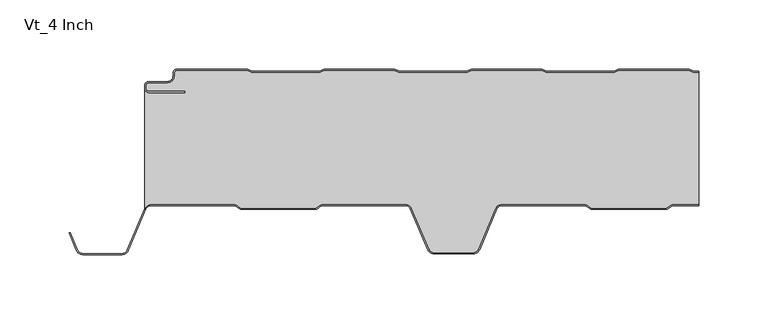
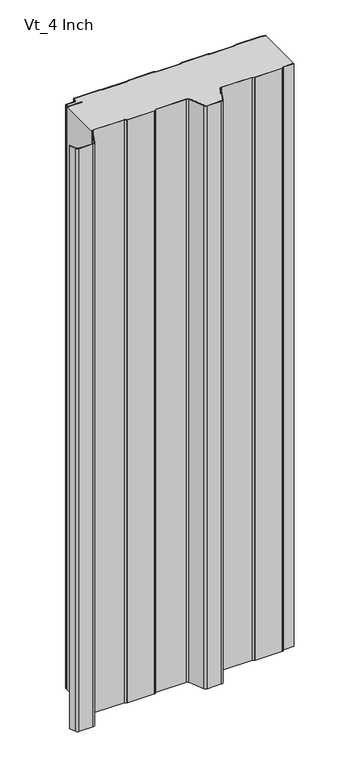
"""IFC4 building model written with IfcOpenShell, lengths in millimetres: plate geometry, AWIP_R18_CP_HR5_Vt_Roof Panel : Vt_4 Inch."""

from ifc_helpers import new_model, si_unit, point, frame, frame_2d, origin, origin_with_axes, place, context, project, spatial, polyline, circle_curve, trimmed, segment, composite_curve, outline, extrude, source, transform, mapped, element, save


def vt_4_inch_39a0264b(model_context):
    return source(origin(), model_context, "Body", "SweptSolid", [
        extrude(outline(composite_curve([segment(polyline([(212.4037368, -1.5), (215.9042607, -1.5), (215.9042607, -2.3), (212.4037368, -2.3)]), True, "CONTINUOUS"), segment(trimmed(circle_curve(frame_2d((212.4037368, 1.0)), 3.3), [point((212.4037368, -2.3))], [point((211.0949824, -2.0293831))], False, "CARTESIAN"), True, "CONTINUOUS"), segment(polyline([(211.0949824, -2.0293831), (208.7048832, -0.9968123)]), True, "CONTINUOUS"), segment(trimmed(circle_curve(frame_2d((207.7530619, -3.2)), 2.4), [point((208.7048832, -0.9968123))], [point((207.7530619, -0.8))], True, "CARTESIAN"), True, "CONTINUOUS"), segment(polyline([(207.7530619, -0.8), (158.8384168, -0.8)]), True, "CONTINUOUS"), segment(trimmed(circle_curve(frame_2d((158.8384168, -3.2)), 2.4), [point((158.8384168, -0.8))], [point((157.8865954, -0.9968123))], True, "CARTESIAN"), True, "CONTINUOUS"), segment(polyline([(157.8865954, -0.9968123), (155.4964962, -2.0293831)]), True, "CONTINUOUS"), segment(trimmed(circle_curve(frame_2d((154.1877419, 1.0)), 3.3), [point((155.4964962, -2.0293831))], [point((154.1877419, -2.3))], False, "CARTESIAN"), True, "CONTINUOUS"), segment(polyline([(154.1877419, -2.3), (105.8037368, -2.3)]), True, "CONTINUOUS"), segment(trimmed(circle_curve(frame_2d((105.8037368, 1.0)), 3.3), [point((105.8037368, -2.3))], [point((104.4949824, -2.0293831))], False, "CARTESIAN"), True, "CONTINUOUS"), segment(polyline([(104.4949824, -2.0293831), (102.1048832, -0.9968123)]), True, "CONTINUOUS"), segment(trimmed(circle_curve(frame_2d((101.1530619, -3.2)), 2.4), [point((102.1048832, -0.9968123))], [point((101.1530619, -0.8))], True, "CARTESIAN"), True, "CONTINUOUS"), segment(polyline([(101.1530619, -0.8), (52.2384168, -0.8)]), True, "CONTINUOUS"), segment(trimmed(circle_curve(frame_2d((52.2384168, -3.2)), 2.4), [point((52.2384168, -0.8))], [point((51.2865954, -0.9968123))], True, "CARTESIAN"), True, "CONTINUOUS"), segment(polyline([(51.2865954, -0.9968123), (48.8964962, -2.0293831)]), True, "CONTINUOUS"), segment(trimmed(circle_curve(frame_2d((47.5877419, 1.0)), 3.3), [point((48.8964962, -2.0293831))], [point((47.5877419, -2.3))], False, "CARTESIAN"), True, "CONTINUOUS"), segment(polyline([(47.5877419, -2.3), (-0.7962632, -2.3)]), True, "CONTINUOUS"), segment(trimmed(circle_curve(frame_2d((-0.7962632, 1.0)), 3.3), [point((-0.7962632, -2.3))], [point((-2.1050176, -2.0293831))], False, "CARTESIAN"), True, "CONTINUOUS"), segment(polyline([(-2.1050176, -2.0293831), (-4.4951168, -0.9968123)]), True, "CONTINUOUS"), segment(trimmed(circle_curve(frame_2d((-5.4469381, -3.2)), 2.4), [point((-4.4951168, -0.9968123))], [point((-5.4469381, -0.8))], True, "CARTESIAN"), True, "CONTINUOUS"), segment(polyline([(-5.4469381, -0.8), (-54.3615832, -0.8)]), True, "CONTINUOUS"), segment(trimmed(circle_curve(frame_2d((-54.3615832, -3.2)), 2.4), [point((-54.3615832, -0.8))], [point((-55.3134046, -0.9968123))], True, "CARTESIAN"), True, "CONTINUOUS"), segment(polyline([(-55.3134046, -0.9968123), (-57.7035038, -2.0293831)]), True, "CONTINUOUS"), segment(trimmed(circle_curve(frame_2d((-59.0122581, 1.0)), 3.3), [point((-57.7035038, -2.0293831))], [point((-59.0122581, -2.3))], False, "CARTESIAN"), True, "CONTINUOUS"), segment(polyline([(-59.0122581, -2.3), (-107.3962632, -2.3)]), True, "CONTINUOUS"), segment(trimmed(circle_curve(frame_2d((-107.3962632, 1.0)), 3.3), [point((-107.3962632, -2.3))], [point((-108.7050176, -2.0293831))], False, "CARTESIAN"), True, "CONTINUOUS"), segment(polyline([(-108.7050176, -2.0293831), (-111.0951168, -0.9968123)]), True, "CONTINUOUS"), segment(trimmed(circle_curve(frame_2d((-112.0469381, -3.2)), 2.4), [point((-111.0951168, -0.9968123))], [point((-112.0469381, -0.8))], True, "CARTESIAN"), True, "CONTINUOUS"), segment(polyline([(-112.0469381, -0.8), (-161.8042607, -0.8)]), True, "CONTINUOUS"), segment(trimmed(circle_curve(frame_2d((-161.8042607, -3.0)), 2.2), [point((-161.8042607, -0.8))], [point((-164.0042607, -3.0))], True, "CARTESIAN"), True, "CONTINUOUS"), segment(polyline([(-164.0042607, -3.0), (-164.0042607, -5.0)]), True, "CONTINUOUS"), segment(trimmed(circle_curve(frame_2d((-168.8042607, -5.0)), 4.8), [point((-164.0042607, -5.0))], [point((-168.8042607, -9.8))], False, "CARTESIAN"), True, "CONTINUOUS"), segment(polyline([(-168.8042607, -9.8), (-182.3200708, -9.8)]), True, "CONTINUOUS"), segment(trimmed(circle_curve(frame_2d((-182.3200708, -12.0)), 2.2), [point((-182.3200708, -9.8))], [point((-184.5200708, -12.0))], True, "CARTESIAN"), True, "CONTINUOUS"), segment(polyline([(-184.5200708, -12.0), (-184.5200708, -14.0)]), True, "CONTINUOUS"), segment(trimmed(circle_curve(frame_2d((-182.3200708, -14.0)), 2.2), [point((-184.5200708, -14.0))], [point((-182.3200708, -16.2))], True, "CARTESIAN"), True, "CONTINUOUS"), segment(polyline([(-182.3200708, -16.2), (-156.3790289, -16.2), (-156.3790289, -17.0), (-182.3200708, -17.0)]), True, "CONTINUOUS"), segment(trimmed(circle_curve(frame_2d((-182.3200708, -14.0)), 3.0), [point((-182.3200708, -17.0))], [point((-185.3200708, -14.0))], False, "CARTESIAN"), True, "CONTINUOUS"), segment(polyline([(-185.3200708, -14.0), (-185.3200708, -12.0)]), True, "CONTINUOUS"), segment(trimmed(circle_curve(frame_2d((-182.3200708, -12.0)), 3.0), [point((-185.3200708, -12.0))], [point((-182.3200708, -9.0))], False, "CARTESIAN"), True, "CONTINUOUS"), segment(polyline([(-182.3200708, -9.0), (-168.8042607, -9.0)]), True, "CONTINUOUS"), segment(trimmed(circle_curve(frame_2d((-168.8042607, -5.0)), 4.0), [point((-168.8042607, -9.0))], [point((-164.8042607, -5.0))], True, "CARTESIAN"), True, "CONTINUOUS"), segment(polyline([(-164.8042607, -5.0), (-164.8042607, -3.0)]), True, "CONTINUOUS"), segment(trimmed(circle_curve(frame_2d((-161.8042607, -3.0)), 3.0), [point((-164.8042607, -3.0))], [point((-161.8042607, 0.0))], False, "CARTESIAN"), True, "CONTINUOUS"), segment(polyline([(-161.8042607, 0.0), (-112.0469381, 0.0)]), True, "CONTINUOUS"), segment(trimmed(circle_curve(frame_2d((-112.0469381, -3.2)), 3.2), [point((-112.0469381, 0.0))], [point((-110.777843, -0.2624164))], False, "CARTESIAN"), True, "CONTINUOUS"), segment(polyline([(-110.777843, -0.2624164), (-108.3877438, -1.2949872)]), True, "CONTINUOUS"), segment(trimmed(circle_curve(frame_2d((-107.3962632, 1.0)), 2.5), [point((-108.3877438, -1.2949872))], [point((-107.3962632, -1.5))], True, "CARTESIAN"), True, "CONTINUOUS"), segment(polyline([(-107.3962632, -1.5), (-59.0122581, -1.5)]), True, "CONTINUOUS"), segment(trimmed(circle_curve(frame_2d((-59.0122581, 1.0)), 2.5), [point((-59.0122581, -1.5))], [point((-58.0207775, -1.2949872))], True, "CARTESIAN"), True, "CONTINUOUS"), segment(polyline([(-58.0207775, -1.2949872), (-55.6306783, -0.2624164)]), True, "CONTINUOUS"), segment(trimmed(circle_curve(frame_2d((-54.3615832, -3.2)), 3.2), [point((-55.6306783, -0.2624164))], [point((-54.3615832, 0.0))], False, "CARTESIAN"), True, "CONTINUOUS"), segment(polyline([(-54.3615832, 0.0), (-5.4469381, 0.0)]), True, "CONTINUOUS"), segment(trimmed(circle_curve(frame_2d((-5.4469381, -3.2)), 3.2), [point((-5.4469381, 0.0))], [point((-4.177843, -0.2624164))], False, "CARTESIAN"), True, "CONTINUOUS"), segment(polyline([(-4.177843, -0.2624164), (-1.7877438, -1.2949872)]), True, "CONTINUOUS"), segment(trimmed(circle_curve(frame_2d((-0.7962632, 1.0)), 2.5), [point((-1.7877438, -1.2949872))], [point((-0.7962632, -1.5))], True, "CARTESIAN"), True, "CONTINUOUS"), segment(polyline([(-0.7962632, -1.5), (47.5877419, -1.5)]), True, "CONTINUOUS"), segment(trimmed(circle_curve(frame_2d((47.5877419, 1.0)), 2.5), [point((47.5877419, -1.5))], [point((48.5792225, -1.2949872))], True, "CARTESIAN"), True, "CONTINUOUS"), segment(polyline([(48.5792225, -1.2949872), (50.9693217, -0.2624164)]), True, "CONTINUOUS"), segment(trimmed(circle_curve(frame_2d((52.2384168, -3.2)), 3.2), [point((50.9693217, -0.2624164))], [point((52.2384168, 0.0))], False, "CARTESIAN"), True, "CONTINUOUS"), segment(polyline([(52.2384168, 0.0), (101.1530619, 0.0)]), True, "CONTINUOUS"), segment(trimmed(circle_curve(frame_2d((101.1530619, -3.2)), 3.2), [point((101.1530619, 0.0))], [point((102.422157, -0.2624164))], False, "CARTESIAN"), True, "CONTINUOUS"), segment(polyline([(102.422157, -0.2624164), (104.8122562, -1.2949872)]), True, "CONTINUOUS"), segment(trimmed(circle_curve(frame_2d((105.8037368, 1.0)), 2.5), [point((104.8122562, -1.2949872))], [point((105.8037368, -1.5))], True, "CARTESIAN"), True, "CONTINUOUS"), segment(polyline([(105.8037368, -1.5), (154.1877419, -1.5)]), True, "CONTINUOUS"), segment(trimmed(circle_curve(frame_2d((154.1877419, 1.0)), 2.5), [point((154.1877419, -1.5))], [point((155.1792225, -1.2949872))], True, "CARTESIAN"), True, "CONTINUOUS"), segment(polyline([(155.1792225, -1.2949872), (157.5693217, -0.2624164)]), True, "CONTINUOUS"), segment(trimmed(circle_curve(frame_2d((158.8384168, -3.2)), 3.2), [point((157.5693217, -0.2624164))], [point((158.8384168, 0.0))], False, "CARTESIAN"), True, "CONTINUOUS"), segment(polyline([(158.8384168, 0.0), (207.7530619, 0.0)]), True, "CONTINUOUS"), segment(trimmed(circle_curve(frame_2d((207.7530619, -3.2)), 3.2), [point((207.7530619, 0.0))], [point((209.022157, -0.2624164))], False, "CARTESIAN"), True, "CONTINUOUS"), segment(polyline([(209.022157, -0.2624164), (211.4122562, -1.2949872)]), True, "CONTINUOUS"), segment(trimmed(circle_curve(frame_2d((212.4037368, 1.0)), 2.5), [point((211.4122562, -1.2949872))], [point((212.4037368, -1.5))], True, "CARTESIAN"), True, "CONTINUOUS")], self_intersect=False)), origin_with_axes(), (0.0, 0.0, 1.0), 1219.2),
        extrude(outline(composite_curve([segment(trimmed(circle_curve(frame_2d((-128.7851339, 52.1967135)), 4.2), [point((-132.9851339, 52.1967135))], [point((-130.4261781, 56.0628451))], False, "CARTESIAN"), True, "CONTINUOUS"), segment(polyline([(-130.4261781, 56.0628451), (-100.940402, 68.5785758)]), True, "CONTINUOUS"), segment(trimmed(circle_curve(frame_2d((-102.8158812, 72.9970122)), 4.8000002), [point((-100.940402, 68.5785758))], [point((-98.015881, 72.9970122))], True, "CARTESIAN"), True, "CONTINUOUS"), segment(polyline([(-98.015881, 72.9970122), (-98.015881, 133.8457671)]), True, "CONTINUOUS"), segment(trimmed(circle_curve(frame_2d((-99.315881, 133.8457671)), 1.3), [point((-98.015881, 133.8457671))], [point((-98.2621802, 134.607157))], True, "CARTESIAN"), True, "CONTINUOUS"), segment(polyline([(-98.2621802, 134.607157), (-100.8000003, 138.119291), (-100.8000003, 192.3221722), (-98.2621803, 195.8343063)]), True, "CONTINUOUS"), segment(trimmed(circle_curve(frame_2d((-99.3158817, 196.5956965)), 1.3000007), [point((-98.2621803, 195.8343063))], [point((-98.015881, 196.5956965))], True, "CARTESIAN"), True, "CONTINUOUS"), segment(polyline([(-98.015881, 196.5956965), (-98.015881, 215.9042607), (-2.3, 215.9042607), (-2.3, 212.3867902)]), True, "CONTINUOUS"), segment(trimmed(circle_curve(frame_2d((1.0, 212.3867902)), 3.3), [point((-2.3, 212.3867902))], [point((-2.0293831, 211.0780359))], True, "CARTESIAN"), True, "CONTINUOUS"), segment(polyline([(-2.0293831, 211.0780359), (-0.9968123, 208.6879367)]), True, "CONTINUOUS"), segment(trimmed(circle_curve(frame_2d((-3.2, 207.7361153)), 2.4), [point((-0.9968123, 208.6879367))], [point((-0.8, 207.7361153))], False, "CARTESIAN"), True, "CONTINUOUS"), segment(polyline([(-0.8, 207.7361153), (-0.8, 158.8214702)]), True, "CONTINUOUS"), segment(trimmed(circle_curve(frame_2d((-3.2, 158.8214702)), 2.4), [point((-0.8, 158.8214702))], [point((-0.9968123, 157.8696489))], False, "CARTESIAN"), True, "CONTINUOUS"), segment(polyline([(-0.9968123, 157.8696489), (-2.0293831, 155.4795497)]), True, "CONTINUOUS"), segment(trimmed(circle_curve(frame_2d((1.0, 154.1707953)), 3.3), [point((-2.0293831, 155.4795497))], [point((-2.3, 154.1707953))], True, "CARTESIAN"), True, "CONTINUOUS"), segment(polyline([(-2.3, 154.1707953), (-2.3, 105.7867902)]), True, "CONTINUOUS"), segment(trimmed(circle_curve(frame_2d((1.0, 105.7867902)), 3.3), [point((-2.3, 105.7867902))], [point((-2.0293831, 104.4780359))], True, "CARTESIAN"), True, "CONTINUOUS"), segment(polyline([(-2.0293831, 104.4780359), (-0.9968123, 102.0879367)]), True, "CONTINUOUS"), segment(trimmed(circle_curve(frame_2d((-3.2, 101.1361153)), 2.4), [point((-0.9968123, 102.0879367))], [point((-0.8, 101.1361153))], False, "CARTESIAN"), True, "CONTINUOUS"), segment(polyline([(-0.8, 101.1361153), (-0.8, 52.2214702)]), True, "CONTINUOUS"), segment(trimmed(circle_curve(frame_2d((-3.2, 52.2214702)), 2.4), [point((-0.8, 52.2214702))], [point((-0.9968123, 51.2696489))], False, "CARTESIAN"), True, "CONTINUOUS"), segment(polyline([(-0.9968123, 51.2696489), (-2.0293831, 48.8795497)]), True, "CONTINUOUS"), segment(trimmed(circle_curve(frame_2d((1.0, 47.5707953)), 3.3), [point((-2.0293831, 48.8795497))], [point((-2.3, 47.5707953))], True, "CARTESIAN"), True, "CONTINUOUS"), segment(polyline([(-2.3, 47.5707953), (-2.3, -0.8132098)]), True, "CONTINUOUS"), segment(trimmed(circle_curve(frame_2d((1.0, -0.8132098)), 3.3), [point((-2.3, -0.8132098))], [point((-2.0293831, -2.1219641))], True, "CARTESIAN"), True, "CONTINUOUS"), segment(polyline([(-2.0293831, -2.1219641), (-0.9968123, -4.5120633)]), True, "CONTINUOUS"), segment(trimmed(circle_curve(frame_2d((-3.2, -5.4638847)), 2.4), [point((-0.9968123, -4.5120633))], [point((-0.8, -5.4638847))], False, "CARTESIAN"), True, "CONTINUOUS"), segment(polyline([(-0.8, -5.4638847), (-0.8, -54.3785298)]), True, "CONTINUOUS"), segment(trimmed(circle_curve(frame_2d((-3.2, -54.3785298)), 2.4), [point((-0.8, -54.3785298))], [point((-0.9968123, -55.3303511))], False, "CARTESIAN"), True, "CONTINUOUS"), segment(polyline([(-0.9968123, -55.3303511), (-2.0293831, -57.7204503)]), True, "CONTINUOUS"), segment(trimmed(circle_curve(frame_2d((1.0, -59.0292047)), 3.3), [point((-2.0293831, -57.7204503))], [point((-2.3, -59.0292047))], True, "CARTESIAN"), True, "CONTINUOUS"), segment(polyline([(-2.3, -59.0292047), (-2.3, -107.4132098)]), True, "CONTINUOUS"), segment(trimmed(circle_curve(frame_2d((1.0, -107.4132098)), 3.3), [point((-2.3, -107.4132098))], [point((-2.0293831, -108.7219641))], True, "CARTESIAN"), True, "CONTINUOUS"), segment(polyline([(-2.0293831, -108.7219641), (-0.9968123, -111.1120633)]), True, "CONTINUOUS"), segment(trimmed(circle_curve(frame_2d((-3.2, -112.0638847)), 2.4), [point((-0.9968123, -111.1120633))], [point((-0.8, -112.0638847))], False, "CARTESIAN"), True, "CONTINUOUS"), segment(polyline([(-0.8, -112.0638847), (-0.8, -161.8212072)]), True, "CONTINUOUS"), segment(trimmed(circle_curve(frame_2d((-3.0, -161.8212072)), 2.2), [point((-0.8, -161.8212072))], [point((-3.0, -164.0212072))], False, "CARTESIAN"), True, "CONTINUOUS"), segment(polyline([(-3.0, -164.0212072), (-5.0, -164.0212072)]), True, "CONTINUOUS"), segment(trimmed(circle_curve(frame_2d((-5.0, -168.8212072)), 4.8), [point((-5.0, -164.0212072))], [point((-9.8, -168.8212072))], True, "CARTESIAN"), True, "CONTINUOUS"), segment(polyline([(-9.8, -168.8212072), (-9.8, -182.3370174)]), True, "CONTINUOUS"), segment(trimmed(circle_curve(frame_2d((-12.0, -182.3370174)), 2.2), [point((-9.8, -182.3370174))], [point((-12.0, -184.5370174))], False, "CARTESIAN"), True, "CONTINUOUS"), segment(polyline([(-12.0, -184.5370174), (-14.0, -184.5370174)]), True, "CONTINUOUS"), segment(trimmed(circle_curve(frame_2d((-14.0, -182.3370174)), 2.2), [point((-14.0, -184.5370174))], [point((-16.2, -182.3370174))], False, "CARTESIAN"), True, "CONTINUOUS"), segment(polyline([(-16.2, -182.3370174), (-16.2, -156.3959754), (-17.0, -156.3959754), (-17.0, -182.3370174)]), True, "CONTINUOUS"), segment(trimmed(circle_curve(frame_2d((-14.0, -182.3370174)), 3.0), [point((-17.0, -182.3370174))], [point((-14.0, -185.3370174))], True, "CARTESIAN"), True, "CONTINUOUS"), segment(polyline([(-14.0, -185.3370174), (-101.6209553, -185.3370174)]), True, "CONTINUOUS"), segment(trimmed(circle_curve(frame_2d((-102.8158808, -180.6881301)), 4.8), [point((-101.6209553, -185.3370174))], [point((-98.0158808, -180.6881301))], True, "CARTESIAN"), True, "CONTINUOUS"), segment(polyline([(-98.0158808, -180.6881301), (-98.0158808, -119.9042132)]), True, "CONTINUOUS"), segment(trimmed(circle_curve(frame_2d((-99.3158808, -119.9042132)), 1.3), [point((-98.0158808, -119.9042132))], [point((-98.2621799, -119.1428234))], True, "CARTESIAN"), True, "CONTINUOUS"), segment(polyline([(-98.2621799, -119.1428234), (-100.8000003, -115.6306887), (-100.8000003, -61.4278085), (-98.26218, -57.915674)]), True, "CONTINUOUS"), segment(trimmed(circle_curve(frame_2d((-99.3158809, -57.1542841)), 1.3), [point((-98.26218, -57.915674))], [point((-98.0158809, -57.1542841))], True, "CARTESIAN"), True, "CONTINUOUS"), segment(polyline([(-98.0158809, -57.1542841), (-98.0158809, 3.6944665)]), True, "CONTINUOUS"), segment(trimmed(circle_curve(frame_2d((-102.8158809, 3.6944665)), 4.8000001), [point((-98.0158809, 3.6944665))], [point((-100.9404018, 8.1129027))], True, "CARTESIAN"), True, "CONTINUOUS"), segment(polyline([(-100.9404018, 8.1129027), (-130.4261781, 20.6286335)]), True, "CONTINUOUS"), segment(trimmed(circle_curve(frame_2d((-128.7851339, 24.4947652)), 4.2), [point((-130.4261781, 20.6286335))], [point((-132.9851339, 24.4947652))], False, "CARTESIAN"), True, "CONTINUOUS"), segment(polyline([(-132.9851339, 24.4947652), (-132.9851339, 52.1967135)]), True, "CONTINUOUS")], self_intersect=False)), frame((0.0, 0.0, 1219.2), z_axis=(0.0, 0.0, -1.0), x_axis=(0.0, 1.0, 0.0)), (0.0, 0.0, 1.0), 1219.2),
        extrude(outline(composite_curve([segment(polyline([(196.5956965, -98.0158806), (215.9042607, -98.0158806), (215.9042607, -98.8158806), (196.4339534, -98.8158806), (192.9742585, -101.3158087)]), True, "CONTINUOUS"), segment(trimmed(circle_curve(frame_2d((192.0957318, -100.0999999)), 1.5), [point((192.9742585, -101.3158087))], [point((192.0957318, -101.5999999))], False, "CARTESIAN"), True, "CONTINUOUS"), segment(polyline([(192.0957318, -101.5999999), (138.3457318, -101.6000002)]), True, "CONTINUOUS"), segment(trimmed(circle_curve(frame_2d((138.3457318, -100.1000001)), 1.5000001), [point((138.3457318, -101.6000002))], [point((137.4672049, -101.3158088))], False, "CARTESIAN"), True, "CONTINUOUS"), segment(polyline([(137.4672049, -101.3158088), (134.00751, -98.8158803), (73.3496366, -98.8158803)]), True, "CONTINUOUS"), segment(trimmed(circle_curve(frame_2d((73.3496366, -102.8158808)), 4.0000005), [point((73.3496366, -98.8158803))], [point((69.6676059, -101.2529814))], True, "CARTESIAN"), True, "CONTINUOUS"), segment(polyline([(69.6676059, -101.2529814), (57.1388245, -130.7695044)]), True, "CONTINUOUS"), segment(trimmed(circle_curve(frame_2d((52.5362869, -128.8158803)), 5.0), [point((57.1388245, -130.7695044))], [point((52.5362869, -133.8158803))], False, "CARTESIAN"), True, "CONTINUOUS"), segment(polyline([(52.5362869, -133.8158803), (24.1551918, -133.8158803)]), True, "CONTINUOUS"), segment(trimmed(circle_curve(frame_2d((24.1551918, -128.8158803)), 5.0), [point((24.1551918, -133.8158803))], [point((19.5526541, -130.7695044))], False, "CARTESIAN"), True, "CONTINUOUS"), segment(polyline([(19.5526541, -130.7695044), (7.0238723, -101.2529813)]), True, "CONTINUOUS"), segment(trimmed(circle_curve(frame_2d((3.3418421, -102.8158806)), 4.0000001), [point((7.0238723, -101.2529813))], [point((3.3418421, -98.8158805))], True, "CARTESIAN"), True, "CONTINUOUS"), segment(polyline([(3.3418421, -98.8158805), (-57.3160273, -98.8158805), (-60.7757221, -101.3158086)]), True, "CONTINUOUS"), segment(trimmed(circle_curve(frame_2d((-61.6542488, -100.0999999)), 1.5), [point((-60.7757221, -101.3158086))], [point((-61.6552202, -101.5999996))], False, "CARTESIAN"), True, "CONTINUOUS"), segment(polyline([(-61.6552202, -101.5999996), (-115.4042488, -101.5999996)]), True, "CONTINUOUS"), segment(trimmed(circle_curve(frame_2d((-115.4042488, -100.0999996)), 1.5), [point((-115.4042488, -101.5999996))], [point((-116.2827756, -101.3158083))], False, "CARTESIAN"), True, "CONTINUOUS"), segment(polyline([(-116.2827756, -101.3158083), (-119.7424699, -98.8158804), (-180.6881301, -98.8158804)]), True, "CONTINUOUS"), segment(trimmed(circle_curve(frame_2d((-180.6881301, -102.8158804)), 4.0), [point((-180.6881301, -98.8158804))], [point((-184.3701602, -101.2529811))], True, "CARTESIAN"), True, "CONTINUOUS"), segment(polyline([(-184.3701602, -101.2529811), (-197.1111755, -131.2695045)]), True, "CONTINUOUS"), segment(trimmed(circle_curve(frame_2d((-201.7137131, -129.3158804)), 5.0), [point((-197.1111755, -131.2695045))], [point((-201.7137131, -134.3158804))], False, "CARTESIAN"), True, "CONTINUOUS"), segment(polyline([(-201.7137131, -134.3158804), (-230.0948052, -134.3158804)]), True, "CONTINUOUS"), segment(trimmed(circle_curve(frame_2d((-230.0948052, -129.3158804)), 5.0), [point((-230.0948052, -134.3158804))], [point((-234.6973445, -131.2695007))], False, "CARTESIAN"), True, "CONTINUOUS"), segment(polyline([(-234.6973445, -131.2695007), (-240.046569, -118.6672483), (-239.3095274, -118.3561658), (-233.9609382, -130.9569214)]), True, "CONTINUOUS"), segment(trimmed(circle_curve(frame_2d((-230.0948052, -129.3158804)), 4.2), [point((-233.9609382, -130.9569214))], [point((-230.0948052, -133.5158804))], True, "CARTESIAN"), True, "CONTINUOUS"), segment(polyline([(-230.0948052, -133.5158804), (-201.7137131, -133.5158804)]), True, "CONTINUOUS"), segment(trimmed(circle_curve(frame_2d((-201.7137131, -129.3158804)), 4.2), [point((-201.7137131, -133.5158804))], [point((-197.8475815, -130.9569246))], True, "CARTESIAN"), True, "CONTINUOUS"), segment(polyline([(-197.8475815, -130.9569246), (-185.1065662, -100.9404013)]), True, "CONTINUOUS"), segment(trimmed(circle_curve(frame_2d((-180.6881301, -102.8158804)), 4.8), [point((-185.1065662, -100.9404013))], [point((-180.6881301, -98.0158804))], False, "CARTESIAN"), True, "CONTINUOUS"), segment(polyline([(-180.6881301, -98.0158804), (-119.9042132, -98.0158804)]), True, "CONTINUOUS"), segment(trimmed(circle_curve(frame_2d((-119.9042132, -99.3158804)), 1.3), [point((-119.9042132, -98.0158804))], [point((-119.1428234, -98.2621795))], False, "CARTESIAN"), True, "CONTINUOUS"), segment(polyline([(-119.1428234, -98.2621795), (-115.6306887, -100.7999999), (-61.4278085, -100.7999999), (-57.915674, -98.2621796)]), True, "CONTINUOUS"), segment(trimmed(circle_curve(frame_2d((-57.1542841, -99.3158805)), 1.3), [point((-57.915674, -98.2621796))], [point((-57.1542841, -98.0158805))], False, "CARTESIAN"), True, "CONTINUOUS"), segment(polyline([(-57.1542841, -98.0158805), (3.3418421, -98.0158805)]), True, "CONTINUOUS"), segment(trimmed(circle_curve(frame_2d((3.3418421, -102.8158806)), 4.8000001), [point((3.3418421, -98.0158805))], [point((7.7602783, -100.9404014))], False, "CARTESIAN"), True, "CONTINUOUS"), segment(polyline([(7.7602783, -100.9404014), (20.2890602, -130.4569246)]), True, "CONTINUOUS"), segment(trimmed(circle_curve(frame_2d((24.1551918, -128.8158803)), 4.2), [point((20.2890602, -130.4569246))], [point((24.1551918, -133.0158803))], True, "CARTESIAN"), True, "CONTINUOUS"), segment(polyline([(24.1551918, -133.0158803), (52.5362869, -133.0158803)]), True, "CONTINUOUS"), segment(trimmed(circle_curve(frame_2d((52.5362869, -128.8158803)), 4.2), [point((52.5362869, -133.0158803))], [point((56.4024185, -130.4569246))], True, "CARTESIAN"), True, "CONTINUOUS"), segment(polyline([(56.4024185, -130.4569246), (68.9312002, -100.9404017)]), True, "CONTINUOUS"), segment(trimmed(circle_curve(frame_2d((73.3496366, -102.8158808)), 4.8000002), [point((68.9312002, -100.9404017))], [point((73.3496366, -98.0158806))], False, "CARTESIAN"), True, "CONTINUOUS"), segment(polyline([(73.3496366, -98.0158806), (133.8457671, -98.0158806)]), True, "CONTINUOUS"), segment(trimmed(circle_curve(frame_2d((133.8457671, -99.3158806)), 1.3), [point((133.8457671, -98.0158806))], [point((134.607157, -98.2621798))], False, "CARTESIAN"), True, "CONTINUOUS"), segment(polyline([(134.607157, -98.2621798), (138.119291, -100.7999999), (192.3221722, -100.7999999), (195.8343063, -98.2621799)]), True, "CONTINUOUS"), segment(trimmed(circle_curve(frame_2d((196.5956965, -99.3158813)), 1.3000007), [point((195.8343063, -98.2621799))], [point((196.5956965, -98.0158806))], False, "CARTESIAN"), True, "CONTINUOUS")], self_intersect=False)), origin_with_axes(), (0.0, 0.0, 1.0), 1219.2),
    ])


if __name__ == "__main__":
    model = new_model("IFC4")
    model_context = context("Model", 3, world=origin())
    ifc_project = project(units=[si_unit("LENGTHUNIT", "METRE", prefix="MILLI")], contexts=[model_context])
    site = spatial("IfcSite", under=ifc_project)
    building = spatial("IfcBuilding", under=site)
    placement = place(None, origin())
    vt_4_inch_shape = vt_4_inch_39a0264b(model_context)
    element("IfcPlate", 1, ObjectType="AWIP_R18_CP_HR5_Vt_Roof Panel : Vt_4 Inch", at=placement, inside=building, context=model_context, shape_type="MappedRepresentation", body=[
        mapped(vt_4_inch_shape, transform((0.0, 0.0, 0.0), x_axis=(1.0, 0.0, 0.0), y_axis=(0.0, 1.0, 0.0), z_axis=(0.0, 0.0, 1.0))),
    ])
    save(model, "model.ifc")
